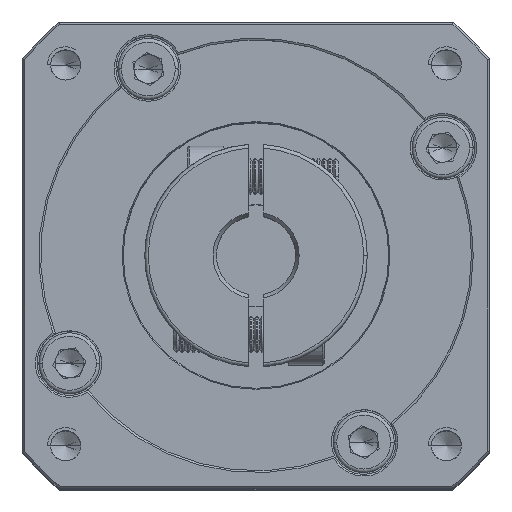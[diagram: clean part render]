
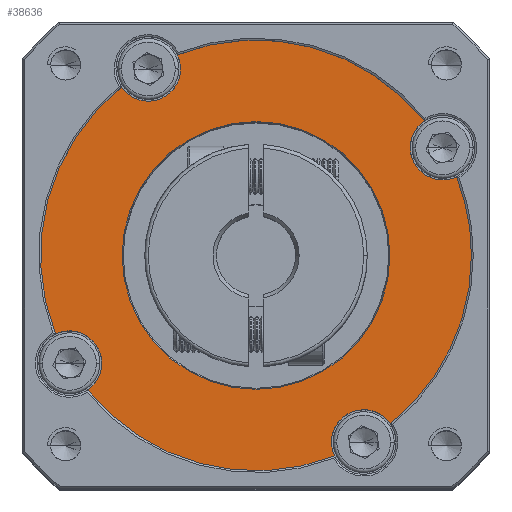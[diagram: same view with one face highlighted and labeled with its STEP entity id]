
A CAD part, top view. The second image highlights one B-rep face of the part: STEP entity #38636.
In plain terms, the highlighted planar face has unit normal (0, 0, 1).
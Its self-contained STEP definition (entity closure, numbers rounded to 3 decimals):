
#706 = DIRECTION ( 'NONE',  ( 0., 0., 1. ) ) ;
#1966 = CARTESIAN_POINT ( 'NONE',  ( -61.584, 25.969, 31.514 ) ) ;
#2272 = DIRECTION ( 'NONE',  ( 1., 0., 0. ) ) ;
#2953 = EDGE_LOOP ( 'NONE', ( #20509, #22523 ) ) ;
#4027 = EDGE_CURVE ( 'NONE', #107810, #108469, #51180, .T. ) ;
#4613 = FACE_BOUND ( 'NONE', #2953, .T. ) ;
#4964 = CARTESIAN_POINT ( 'NONE',  ( -83.065, 10.969, 31.514 ) ) ;
#6274 = DIRECTION ( 'NONE',  ( 1., 0., 0. ) ) ;
#6363 = DIRECTION ( 'NONE',  ( 0., 0., -1. ) ) ;
#6498 = CARTESIAN_POINT ( 'NONE',  ( -61.584, 25.969, 31.514 ) ) ;
#7960 = VERTEX_POINT ( 'NONE', #57624 ) ;
#10466 = DIRECTION ( 'NONE',  ( 1., 0., 0. ) ) ;
#11530 = CIRCLE ( 'NONE', #27968, 4.5 ) ;
#15898 = CARTESIAN_POINT ( 'NONE',  ( -50.639, -1.963, 31.514 ) ) ;
#15962 = VERTEX_POINT ( 'NONE', #103547 ) ;
#15984 = CARTESIAN_POINT ( 'NONE',  ( -38.139, 44.687, 31.514 ) ) ;
#18833 = CARTESIAN_POINT ( 'NONE',  ( -33.652, 36.914, 31.514 ) ) ;
#20509 = ORIENTED_EDGE ( 'NONE', *, *, #4027, .T. ) ;
#20947 = EDGE_CURVE ( 'NONE', #97128, #65128, #86296, .T. ) ;
#21275 = CIRCLE ( 'NONE', #106041, 4.5 ) ;
#22261 = AXIS2_PLACEMENT_3D ( 'NONE', #34400, #93772, #42951 ) ;
#22523 = ORIENTED_EDGE ( 'NONE', *, *, #87920, .T. ) ;
#23083 = EDGE_CURVE ( 'NONE', #7960, #92773, #84132, .T. ) ;
#23386 = CARTESIAN_POINT ( 'NONE',  ( -72.084, 51.95, 31.514 ) ) ;
#23399 = CARTESIAN_POINT ( 'NONE',  ( -46.584, -0.011, 31.514 ) ) ;
#24210 = CARTESIAN_POINT ( 'NONE',  ( -51.084, -0.011, 31.514 ) ) ;
#24432 = ORIENTED_EDGE ( 'NONE', *, *, #36541, .F. ) ;
#24479 = FACE_OUTER_BOUND ( 'NONE', #56063, .T. ) ;
#24853 = AXIS2_PLACEMENT_3D ( 'NONE', #38273, #97597, #46804 ) ;
#25439 = CARTESIAN_POINT ( 'NONE',  ( -80.229, 25.969, 31.514 ) ) ;
#26877 = CARTESIAN_POINT ( 'NONE',  ( -85.029, 7.252, 31.514 ) ) ;
#27504 = ORIENTED_EDGE ( 'NONE', *, *, #20947, .T. ) ;
#27968 = AXIS2_PLACEMENT_3D ( 'NONE', #103865, #53063, #2272 ) ;
#28240 = CARTESIAN_POINT ( 'NONE',  ( -76.584, 51.95, 31.514 ) ) ;
#28761 = EDGE_CURVE ( 'NONE', #106339, #15962, #52609, .T. ) ;
#29222 = ORIENTED_EDGE ( 'NONE', *, *, #77014, .F. ) ;
#30422 = DIRECTION ( 'NONE',  ( 0., 0., 1. ) ) ;
#30998 = AXIS2_PLACEMENT_3D ( 'NONE', #81320, #30422, #89827 ) ;
#31140 = ORIENTED_EDGE ( 'NONE', *, *, #42405, .F. ) ;
#31525 = AXIS2_PLACEMENT_3D ( 'NONE', #97578, #46774, #106056 ) ;
#31927 = DIRECTION ( 'NONE',  ( 1., 0., 0. ) ) ;
#31985 = DIRECTION ( 'NONE',  ( 0., 0., 1. ) ) ;
#33413 = DIRECTION ( 'NONE',  ( 0., 0., 1. ) ) ;
#34400 = CARTESIAN_POINT ( 'NONE',  ( -35.603, 40.969, 31.514 ) ) ;
#34402 = ORIENTED_EDGE ( 'NONE', *, *, #23083, .T. ) ;
#36283 = ORIENTED_EDGE ( 'NONE', *, *, #90257, .T. ) ;
#36541 = EDGE_CURVE ( 'NONE', #97128, #53340, #21275, .T. ) ;
#36747 = EDGE_CURVE ( 'NONE', #69113, #86029, #91554, .T. ) ;
#36809 = DIRECTION ( 'NONE',  ( 1., 0., 0. ) ) ;
#37268 = DIRECTION ( 'NONE',  ( 0., 0., 1. ) ) ;
#38190 = ORIENTED_EDGE ( 'NONE', *, *, #63235, .F. ) ;
#38196 = CARTESIAN_POINT ( 'NONE',  ( -80.302, 49.414, 31.514 ) ) ;
#38273 = CARTESIAN_POINT ( 'NONE',  ( -61.584, 25.969, 31.514 ) ) ;
#38636 = ADVANCED_FACE ( 'NONE', ( #4613, #24479 ), #63845, .T. ) ;
#40712 = CARTESIAN_POINT ( 'NONE',  ( -61.584, 25.969, 31.514 ) ) ;
#41474 = ORIENTED_EDGE ( 'NONE', *, *, #36747, .F. ) ;
#42405 = EDGE_CURVE ( 'NONE', #7960, #62625, #71557, .T. ) ;
#42951 = DIRECTION ( 'NONE',  ( 1., 0., 0. ) ) ;
#43069 = ORIENTED_EDGE ( 'NONE', *, *, #101327, .T. ) ;
#44665 = CIRCLE ( 'NONE', #31525, 30. ) ;
#45337 = ORIENTED_EDGE ( 'NONE', *, *, #90058, .F. ) ;
#46774 = DIRECTION ( 'NONE',  ( 0., 0., 1. ) ) ;
#46804 = DIRECTION ( 'NONE',  ( 1., 0., 0. ) ) ;
#48924 = DIRECTION ( 'NONE',  ( 0., 0., 1. ) ) ;
#49218 = DIRECTION ( 'NONE',  ( 1., 0., 0. ) ) ;
#50015 = DIRECTION ( 'NONE',  ( 0., 0., 1. ) ) ;
#50265 = ORIENTED_EDGE ( 'NONE', *, *, #86234, .F. ) ;
#51180 = CIRCLE ( 'NONE', #83927, 18.644 ) ;
#51476 = CARTESIAN_POINT ( 'NONE',  ( -61.584, 25.969, 31.514 ) ) ;
#52092 = ORIENTED_EDGE ( 'NONE', *, *, #28761, .T. ) ;
#52523 = AXIS2_PLACEMENT_3D ( 'NONE', #100799, #50015, #109311 ) ;
#52609 = CIRCLE ( 'NONE', #58982, 30. ) ;
#53063 = DIRECTION ( 'NONE',  ( 0., 0., 1. ) ) ;
#53340 = VERTEX_POINT ( 'NONE', #4964 ) ;
#53779 = AXIS2_PLACEMENT_3D ( 'NONE', #28240, #87594, #36809 ) ;
#54069 = AXIS2_PLACEMENT_3D ( 'NONE', #23399, #82794, #31927 ) ;
#56063 = EDGE_LOOP ( 'NONE', ( #24432, #27504, #29222, #31140, #34402, #36283, #38190, #41474, #43069, #45337, #50265, #52092, #57425 ) ) ;
#57425 = ORIENTED_EDGE ( 'NONE', *, *, #73038, .F. ) ;
#57624 = CARTESIAN_POINT ( 'NONE',  ( -42.867, 2.525, 31.514 ) ) ;
#58446 = VERTEX_POINT ( 'NONE', #23386 ) ;
#58982 = AXIS2_PLACEMENT_3D ( 'NONE', #51476, #706, #60006 ) ;
#60006 = DIRECTION ( 'NONE',  ( 1., 0., 0. ) ) ;
#61280 = DIRECTION ( 'NONE',  ( 0., 0., 1. ) ) ;
#62625 = VERTEX_POINT ( 'NONE', #24210 ) ;
#63021 = CIRCLE ( 'NONE', #53779, 4.5 ) ;
#63235 = EDGE_CURVE ( 'NONE', #86029, #86780, #69917, .T. ) ;
#63845 = PLANE ( 'NONE',  #30998 ) ;
#65128 = VERTEX_POINT ( 'NONE', #15898 ) ;
#69113 = VERTEX_POINT ( 'NONE', #15984 ) ;
#69917 = CIRCLE ( 'NONE', #52523, 4.5 ) ;
#71557 = CIRCLE ( 'NONE', #54069, 4.5 ) ;
#73038 = EDGE_CURVE ( 'NONE', #53340, #15962, #81412, .T. ) ;
#75800 = CARTESIAN_POINT ( 'NONE',  ( -40.103, 40.969, 31.514 ) ) ;
#75942 = AXIS2_PLACEMENT_3D ( 'NONE', #1966, #61280, #10466 ) ;
#77014 = EDGE_CURVE ( 'NONE', #62625, #65128, #106626, .T. ) ;
#77469 = CARTESIAN_POINT ( 'NONE',  ( -42.94, 25.969, 31.514 ) ) ;
#79449 = VERTEX_POINT ( 'NONE', #101071 ) ;
#81320 = CARTESIAN_POINT ( 'NONE',  ( -61.584, 25.969, 31.514 ) ) ;
#81412 = CIRCLE ( 'NONE', #91415, 4.5 ) ;
#82794 = DIRECTION ( 'NONE',  ( 0., 0., 1. ) ) ;
#82851 = CARTESIAN_POINT ( 'NONE',  ( -61.584, 25.969, 31.514 ) ) ;
#83927 = AXIS2_PLACEMENT_3D ( 'NONE', #6498, #6363, #6274 ) ;
#84052 = AXIS2_PLACEMENT_3D ( 'NONE', #82851, #31985, #91359 ) ;
#84132 = CIRCLE ( 'NONE', #104478, 30. ) ;
#84272 = CARTESIAN_POINT ( 'NONE',  ( -46.584, -0.011, 31.514 ) ) ;
#86029 = VERTEX_POINT ( 'NONE', #75800 ) ;
#86234 = EDGE_CURVE ( 'NONE', #106339, #58446, #63021, .T. ) ;
#86296 = CIRCLE ( 'NONE', #75942, 30. ) ;
#86780 = VERTEX_POINT ( 'NONE', #18833 ) ;
#87594 = DIRECTION ( 'NONE',  ( 0., 0., 1. ) ) ;
#87920 = EDGE_CURVE ( 'NONE', #108469, #107810, #91506, .T. ) ;
#88077 = CARTESIAN_POINT ( 'NONE',  ( -87.565, 10.969, 31.514 ) ) ;
#88963 = AXIS2_PLACEMENT_3D ( 'NONE', #84272, #33413, #92790 ) ;
#89827 = DIRECTION ( 'NONE',  ( 1., 0., 0. ) ) ;
#90058 = EDGE_CURVE ( 'NONE', #58446, #79449, #11530, .T. ) ;
#90257 = EDGE_CURVE ( 'NONE', #92773, #86780, #44665, .T. ) ;
#91359 = DIRECTION ( 'NONE',  ( 1., 0., 0. ) ) ;
#91415 = AXIS2_PLACEMENT_3D ( 'NONE', #88077, #37268, #96619 ) ;
#91506 = CIRCLE ( 'NONE', #24853, 18.644 ) ;
#91554 = CIRCLE ( 'NONE', #22261, 4.5 ) ;
#92773 = VERTEX_POINT ( 'NONE', #105260 ) ;
#92790 = DIRECTION ( 'NONE',  ( 1., 0., 0. ) ) ;
#93772 = DIRECTION ( 'NONE',  ( 0., 0., 1. ) ) ;
#96619 = DIRECTION ( 'NONE',  ( 1., 0., 0. ) ) ;
#97128 = VERTEX_POINT ( 'NONE', #26877 ) ;
#97578 = CARTESIAN_POINT ( 'NONE',  ( -61.584, 25.969, 31.514 ) ) ;
#97597 = DIRECTION ( 'NONE',  ( 0., 0., -1. ) ) ;
#99721 = CARTESIAN_POINT ( 'NONE',  ( -87.565, 10.969, 31.514 ) ) ;
#100012 = DIRECTION ( 'NONE',  ( 0., 0., 1. ) ) ;
#100799 = CARTESIAN_POINT ( 'NONE',  ( -35.603, 40.969, 31.514 ) ) ;
#101071 = CARTESIAN_POINT ( 'NONE',  ( -72.529, 53.902, 31.514 ) ) ;
#101327 = EDGE_CURVE ( 'NONE', #69113, #79449, #104060, .T. ) ;
#103547 = CARTESIAN_POINT ( 'NONE',  ( -89.516, 15.024, 31.514 ) ) ;
#103865 = CARTESIAN_POINT ( 'NONE',  ( -76.584, 51.95, 31.514 ) ) ;
#104060 = CIRCLE ( 'NONE', #84052, 30. ) ;
#104478 = AXIS2_PLACEMENT_3D ( 'NONE', #40712, #100012, #49218 ) ;
#105260 = CARTESIAN_POINT ( 'NONE',  ( -31.584, 25.969, 31.514 ) ) ;
#106041 = AXIS2_PLACEMENT_3D ( 'NONE', #99721, #48924, #108199 ) ;
#106056 = DIRECTION ( 'NONE',  ( 1., 0., 0. ) ) ;
#106339 = VERTEX_POINT ( 'NONE', #38196 ) ;
#106626 = CIRCLE ( 'NONE', #88963, 4.5 ) ;
#107810 = VERTEX_POINT ( 'NONE', #77469 ) ;
#108199 = DIRECTION ( 'NONE',  ( 1., 0., 0. ) ) ;
#108469 = VERTEX_POINT ( 'NONE', #25439 ) ;
#109311 = DIRECTION ( 'NONE',  ( 1., 0., 0. ) ) ;
